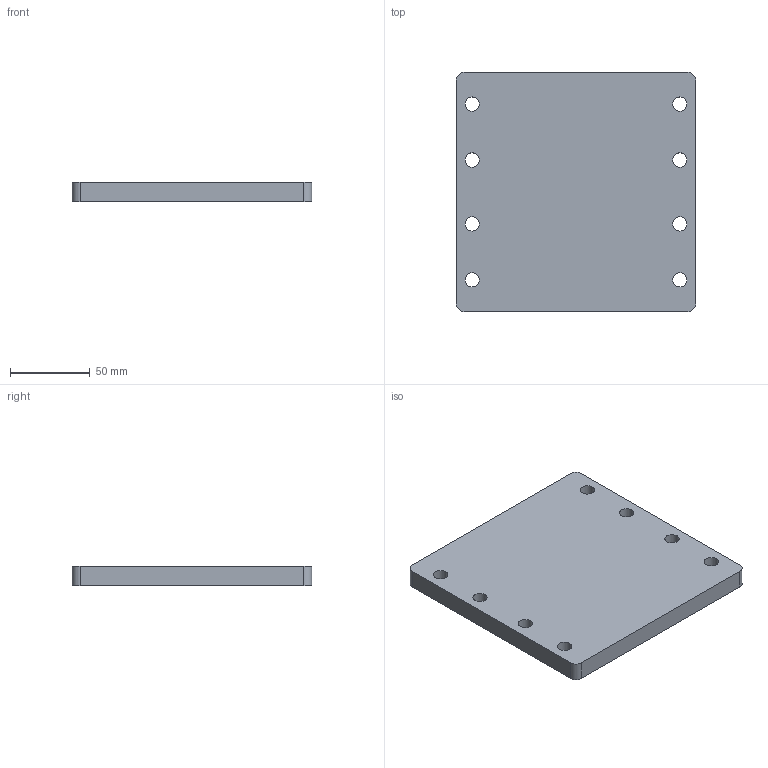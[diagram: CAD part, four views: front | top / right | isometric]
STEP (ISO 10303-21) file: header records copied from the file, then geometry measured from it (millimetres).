
FILE_DESCRIPTION(('FreeCAD Model'),'2;1');
FILE_NAME('Open CASCADE Shape Model','2026-10-30T14:44:39',('FreeCAD'),( 'FreeCAD'),'Open CASCADE STEP processor 7.8','FreeCAD','Unknown');
FILE_SCHEMA(('AUTOMOTIVE_DESIGN { 1 0 10303 214 1 1 1 1 }'));
Length unit declared in the file: millimetre
Products named in the file (1): Open CASCADE STEP translator 7.8 8
Bounding box: 150 x 150 x 12 mm (x, y, z)
Volume: 263587 mm3; surface area: 53810.8 mm2
Topology: 1 solids, 1 shells, 22 faces, 54 edges, 36 vertices
Faces by surface type: cylinder 14, plane 8
Full cylindrical faces by diameter (mm): 3.2 x2, 9 x8
Entity records: 708 total; most frequent: DIRECTION 128, CARTESIAN_POINT 113, ORIENTED_EDGE 108, EDGE_CURVE 54, AXIS2_PLACEMENT_3D 51, FACE_BOUND 40, EDGE_LOOP 40, VERTEX_POINT 36
